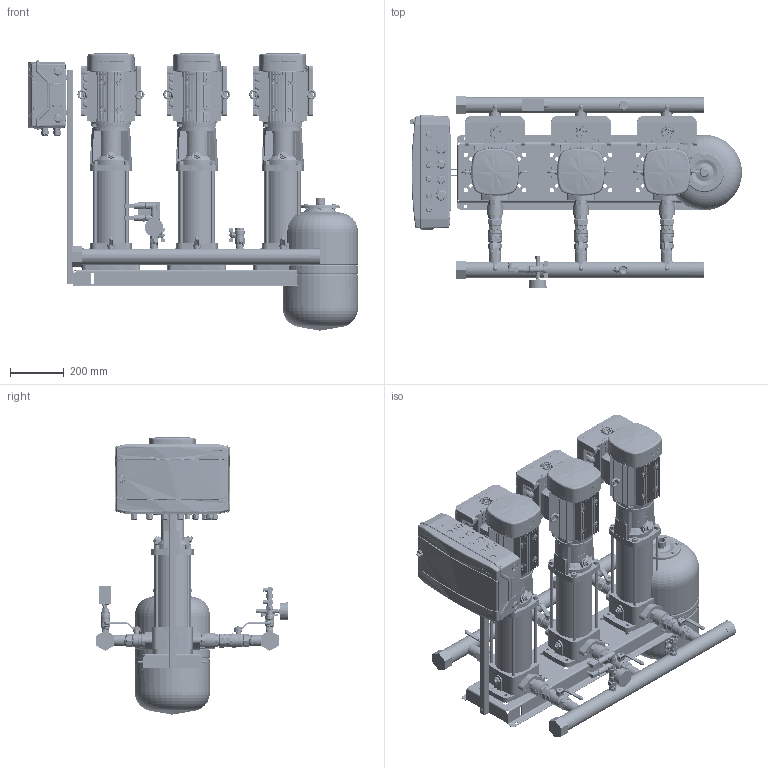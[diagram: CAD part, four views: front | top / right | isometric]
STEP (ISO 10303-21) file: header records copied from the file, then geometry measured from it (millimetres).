
FILE_DESCRIPTION(('CATIA V5 STEP Exchange','CAx-IF Rec.Pracs.--- Model Styling and Organization---1.4--- 2014-01-23','CAx-IF Rec.Pracs.---3D Tessellated Data Validation Properties---0.5---2014-09-14'),'2;1');
FILE_NAME('C:\Users\78432\YandexDisk\Drawings and 3D\3D Hydro Booster\Hydro-ME 3D\Hydro Models\Hydro ME 3 CRV3-xx\Hydro ME 3 CRVE3-17.stp','2023-09-21T09:33:28+00:00',('none'),('none'),'CATIA Version 5-6 Release 2019 SP6','CATIA V5 STEP AP242 v1','none');
FILE_SCHEMA(('AP242_MANAGED_MODEL_BASED_3D_ENGINEERING_MIM_LF {1 0 10303 442 1 1 4}'));
Products named in the file (46): Hydro ME 3 CRVE3-17; 92051012; CRV3-17 Set; CRV 3-17_A_Oval_1.5kW; Base; Flange.1; Flange.2; Sleeve; Pumphead; Staybolt.1; Staybolt.2; Staybolt.3; Staybolt.4; Plug; AirVent; Motor; 92807543_9022-04; Hydraulica NY DN32 1,25 PN16; DN32_FM_LV_47.303.32; 92814060_9013-04; SAJ PDH30 0,75-2,2kW; 97941451; 405801; 91040265; 91040272; 97941488; 00ID7526; Holder and CP 18mod; 92878909; Control ME (18mod); 2 sensors + manometer cpl.; manometr 16 bar; RPD-I-G1_2; 9021-01; 2070 1/2-1/2; _2020 1/2-1/2; 98594078; Tank 24L cpl.; DN20_FF_BF_47.300.20; WAV-24(D140 1'')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
Assembly tree (55 placements, depth 4):
  Hydro ME 3 CRVE3-17
    92051012
    CRV3-17 Set  x3
      CRV 3-17_A_Oval_1.5kW
        Base
        Flange.1
        Flange.2
        Sleeve
        Pumphead
        Staybolt.1
        Staybolt.2
        Staybolt.3
        Staybolt.4
        Plug
        AirVent
        Motor
      92807543_9022-04
      Hydraulica NY DN32 1,25 PN16
      DN32_FM_LV_47.303.32
      92814060_9013-04
      SAJ PDH30 0,75-2,2kW
    97941451  x2
      405801
      91040265
      91040272
      97941488
    00ID7526  x2
    Holder and CP 18mod
      92878909
      Control ME (18mod)
    2 sensors + manometer cpl.
      manometr 16 bar
      RPD-I-G1_2  x2
      9021-01
      2070 1/2-1/2
      _2020 1/2-1/2
      98594078
    Tank 24L cpl.
      DN20_FF_BF_47.300.20
      9021-03
    Relay cpl.
      Relay RD-2R
      DN20_FF_BF_47.300.20
      2530 3/4-1/2
      _2530 1/2-1/4
    91078139
  WAV-24(D140 1'')
Bounding box: 1236.82 x 712 x 1038.99 mm (x, y, z)
Volume: 77285034 mm3; surface area: 7842960.1 mm2
Topology: 215 solids, 269 shells, 27355 faces, 79759 edges, 53304 vertices
Faces by surface type: plane 11544, cylinder 6611, bspline 6546, cone 2003, torus 450, sphere 201
Entity records: 591841 total; most frequent: CARTESIAN_POINT 298352, ORIENTED_EDGE 75379, EDGE_CURVE 38171, DIRECTION 34621, VERTEX_POINT 25408, VECTOR 16054, LINE 16054, B_SPLINE_CURVE_WITH_KNOTS 15225
